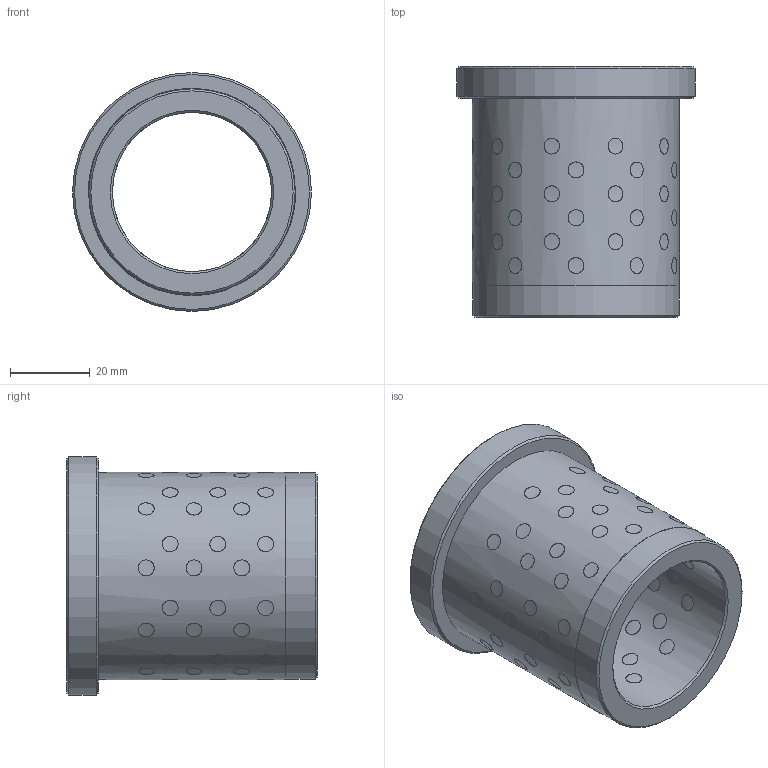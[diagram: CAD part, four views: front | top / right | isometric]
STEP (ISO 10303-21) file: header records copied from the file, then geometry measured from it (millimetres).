
FILE_DESCRIPTION( ( 'STEP AP203' ), '1' );
FILE_NAME( 'D:/Cuma/25 06 2009/D30.03/D30.03_4063.step', '2003-02-03T13:03:44', ( ' ' ), ( ' ' ), 'XStep 1.0', ' ', ' ' );
FILE_SCHEMA( ( 'CONFIG_CONTROL_DESIGN' ) );
Length unit declared in the file: metre
Products named in the file (121): 1; 2; 3; 4; 5; 6; 7; 8; 9; 10; 11; 12; 13; 14; 15; 16; 17; 18; 19; 20; 21; 22; 23; 24; 25; 26; 27; 28; 29; 30; 31; 32; 33; 34; 35; 36; 37; 38; 39; 40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
Bounding box: 60 x 63 x 60 mm (x, y, z)
Volume: 63052.4 mm3; surface area: 36116 mm2
Topology: 121 solids, 121 shells, 434 faces, 582 edges, 386 vertices
Faces by surface type: cylinder 424, cone 5, plane 4, torus 1
Full cylindrical faces by diameter (mm): 4 x180, 40 x1, 51.8 x1, 52 x1, 60 x1
Entity records: 31653 total; most frequent: CARTESIAN_POINT 20383, DIRECTION 1138, EDGE_LOOP 748, ORIENTED_EDGE 748, FACE_OUTER_BOUND 619, CC_DESIGN_PERSON_AND_ORGANIZATION_ASSIGNMENT 605, AXIS2_PLACEMENT_3D 569, PERSON_AND_ORGANIZATION_ROLE 484
